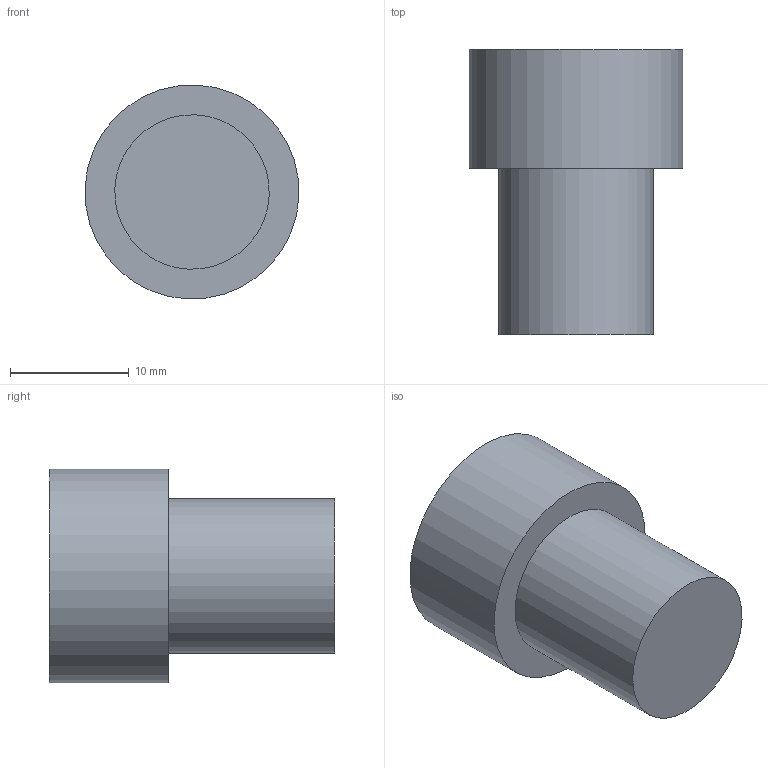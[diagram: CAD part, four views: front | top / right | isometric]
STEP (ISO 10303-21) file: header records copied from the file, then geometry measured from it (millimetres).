
FILE_DESCRIPTION(('Open CASCADE Model'),'2;1');
FILE_NAME('Open CASCADE Shape Model','2026-10-15T20:36:14',('Author'),( 'Open CASCADE'),'Open CASCADE STEP processor 7.9','Open CASCADE 7.9' ,'Unknown');
FILE_SCHEMA(('AUTOMOTIVE_DESIGN { 1 0 10303 214 1 1 1 1 }'));
Length unit declared in the file: millimetre
Products named in the file (1): Open CASCADE STEP translator 7.9 1
Bounding box: 17.98 x 24 x 17.98 mm (x, y, z)
Volume: 4402.9 mm3; surface area: 1646.2 mm2
Topology: 1 solids, 1 shells, 5 faces, 6 edges, 4 vertices
Faces by surface type: plane 3, cylinder 2
Full cylindrical faces by diameter (mm): 13 x1, 18 x1
Entity records: 192 total; most frequent: DIRECTION 34, CARTESIAN_POINT 28, ORIENTED_EDGE 12, PCURVE 12, DEFINITIONAL_REPRESENTATION 12, AXIS2_PLACEMENT_3D 10, LINE 10, VECTOR 10
